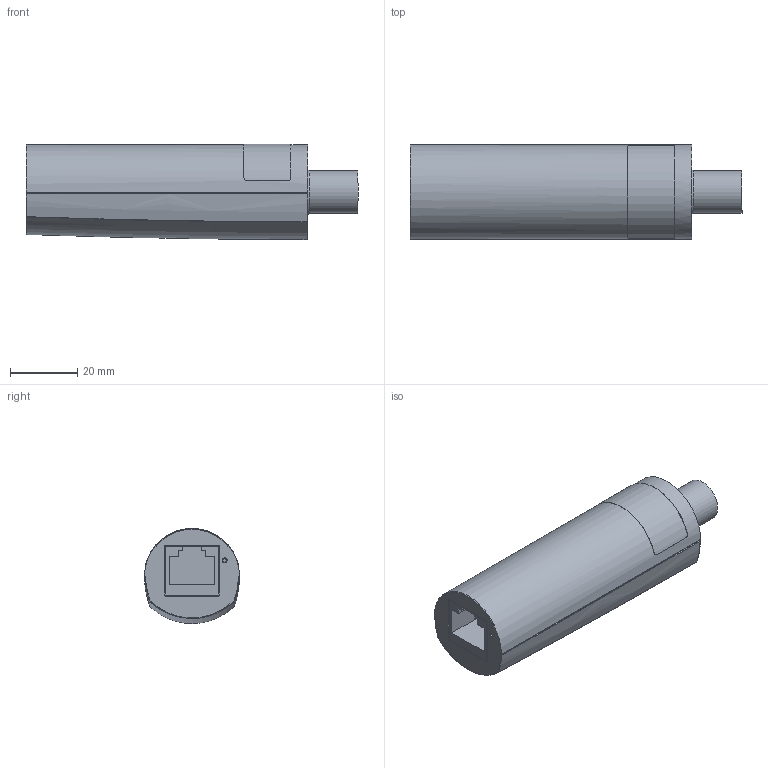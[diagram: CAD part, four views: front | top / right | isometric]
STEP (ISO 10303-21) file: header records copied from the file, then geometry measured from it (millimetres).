
FILE_DESCRIPTION(/* description */ (''),/* implementation_level */ '2;1');
FILE_NAME(/* name */ 'W:\308-750_Porter\CDG020D_Tube_FCC.stp',/* time_stamp */ '2016-05-12T10:11:41+02:00',/* author */ ('BEM'),/* organization */ (''),/* preprocessor_version */ 'ST-DEVELOPER v15.2',/* originating_system */ 'Autodesk Inventor 2014',/* authorisation */ '');
FILE_SCHEMA (('AUTOMOTIVE_DESIGN { 1 0 10303 214 3 1 1 }'));
Length unit declared in the file: millimetre
Products named in the file (1): Bauteil10
Bounding box: 99 x 28.3 x 28.35 mm (x, y, z)
Volume: 25698.6 mm3; surface area: 26821.7 mm2
Topology: 1 solids, 1 shells, 377 faces, 1070 edges, 675 vertices
Faces by surface type: plane 242, cylinder 96, torus 13, bspline 10, sphere 8, cone 8
Full cylindrical faces by diameter (mm): 1.1 x1, 1.3 x2, 2.013 x2, 10.2 x1, 12.7 x1, 13.5 x1, 14 x1, 16 x1, 17.5 x1, 23 x1
Entity records: 12919 total; most frequent: CARTESIAN_POINT 2895, ORIENTED_EDGE 2066, DIRECTION 1894, EDGE_CURVE 1031, LINE 688, VECTOR 688, VERTEX_POINT 664, AXIS2_PLACEMENT_3D 603
